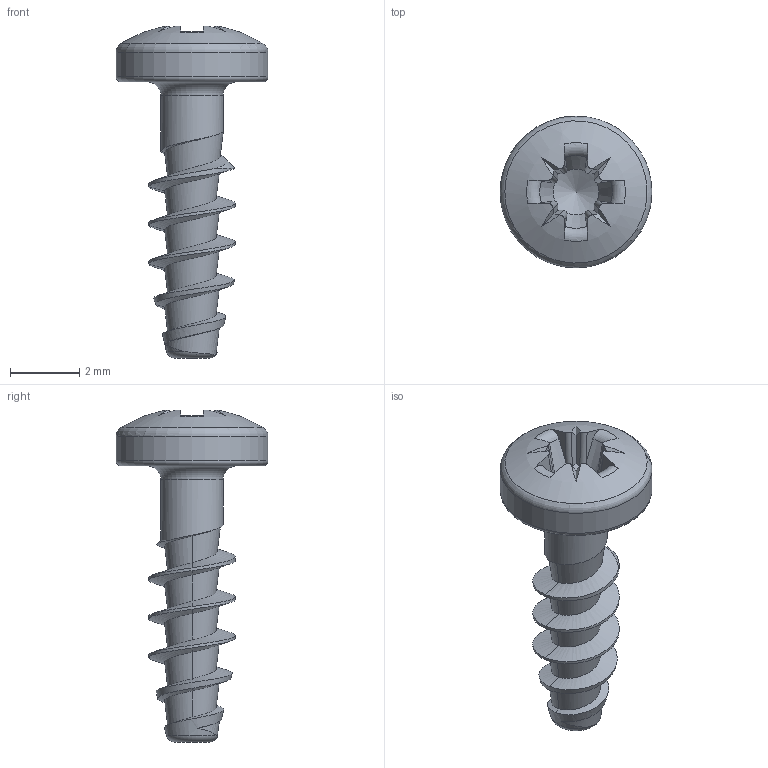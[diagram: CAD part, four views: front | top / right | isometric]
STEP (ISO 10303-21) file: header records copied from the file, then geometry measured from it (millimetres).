
FILE_DESCRIPTION(/* description */ (''),/* implementation_level */ '2;1');
FILE_NAME(/* name */ 'KN1032-Neu-STS-25x8-Z1.step',/* time_stamp */ '2017-10-11T13:00:35+02:00',/* author */ (''),/* organization */ (''),/* preprocessor_version */ 'ST-DEVELOPER v16',/* originating_system */ 'SIEMENS PLM Software NX 10.0',/* authorisation */ '');
FILE_SCHEMA (('AUTOMOTIVE_DESIGN { 1 0 10303 214 3 1 1 1 }'));
Length unit declared in the file: millimetre
Products named in the file (1): KN1032-Neu-STS-25x8-Z1
Bounding box: 4.4 x 4.4 x 9.62 mm (x, y, z)
Volume: 36.5 mm3; surface area: 110.1 mm2
Topology: 1 solids, 1 shells, 72 faces, 192 edges, 122 vertices
Faces by surface type: plane 26, bspline 18, cylinder 12, torus 8, cone 7, sphere 1
Full cylindrical faces by diameter (mm): 1.8 x1, 4.4 x1
Entity records: 3565 total; most frequent: CARTESIAN_POINT 2026, ORIENTED_EDGE 352, DIRECTION 245, EDGE_CURVE 176, VERTEX_POINT 116, AXIS2_PLACEMENT_3D 101, B_SPLINE_CURVE_WITH_KNOTS 86, EDGE_LOOP 79
